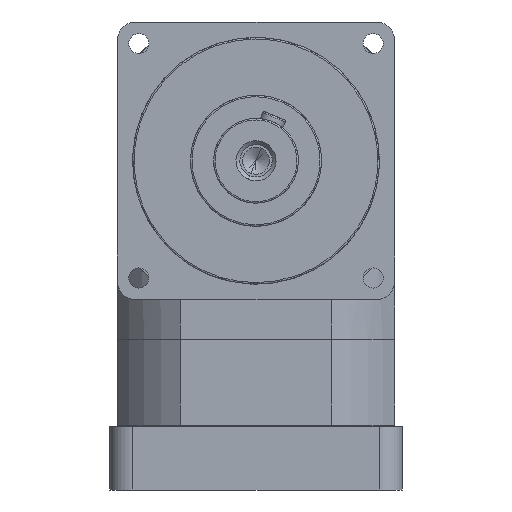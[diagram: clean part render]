
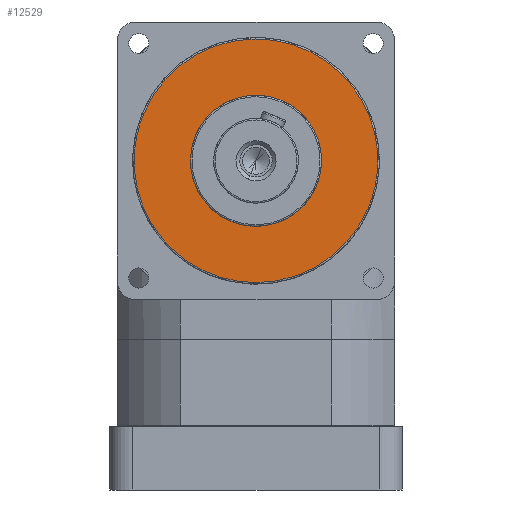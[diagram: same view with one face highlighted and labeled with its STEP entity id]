
A CAD part, left-side view. The second image highlights one B-rep face of the part: STEP entity #12529.
In plain terms, the highlighted planar face has unit normal (-1, 0, 0).
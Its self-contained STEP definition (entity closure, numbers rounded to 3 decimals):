
#3272 = CARTESIAN_POINT ( 'NONE',  ( -218.5, 12.682, 389.694 ) ) ;
#5060 = CARTESIAN_POINT ( 'NONE',  ( -218.5, 73.014, 243.666 ) ) ;
#5129 = VERTEX_POINT ( 'NONE', #34568 ) ;
#6584 = EDGE_CURVE ( 'NONE', #17054, #11764, #30233, .T. ) ;
#8515 = FACE_BOUND ( 'NONE', #34829, .T. ) ;
#9153 = CARTESIAN_POINT ( 'NONE',  ( -218.5, -73.014, 183.334 ) ) ;
#9936 = CARTESIAN_POINT ( 'NONE',  ( -218.5, 0., 213.5 ) ) ;
#10592 =( BOUNDED_CURVE ( )  B_SPLINE_CURVE ( 3, ( #14994, #3272, #27210, #9153 ),
 .UNSPECIFIED., .F., .F. ) 
 B_SPLINE_CURVE_WITH_KNOTS ( ( 4, 4 ),
 ( 0., 1. ),
 .UNSPECIFIED. ) 
 CURVE ( )  GEOMETRIC_REPRESENTATION_ITEM ( )  RATIONAL_B_SPLINE_CURVE ( ( 1., 0.333, 0.333, 1. ) ) 
 REPRESENTATION_ITEM ( '' )  );
#10963 = ORIENTED_EDGE ( 'NONE', *, *, #16827, .F. ) ;
#11086 = AXIS2_PLACEMENT_3D ( 'NONE', #14216, #14207, #14163 ) ;
#11764 = VERTEX_POINT ( 'NONE', #24006 ) ;
#11941 = CARTESIAN_POINT ( 'NONE',  ( -218.5, 0., 213.5 ) ) ;
#12529 = ADVANCED_FACE ( 'NONE', ( #8515, #13233 ), #23939, .F. ) ;
#12939 = DIRECTION ( 'NONE',  ( 0., 0.924, 0.382 ) ) ;
#13233 = FACE_OUTER_BOUND ( 'NONE', #27488, .T. ) ;
#13830 = CARTESIAN_POINT ( 'NONE',  ( -218.5, -12.682, 37.306 ) ) ;
#14163 = DIRECTION ( 'NONE',  ( 0., 0.924, 0.382 ) ) ;
#14207 = DIRECTION ( 'NONE',  ( -1., 0., 0. ) ) ;
#14216 = CARTESIAN_POINT ( 'NONE',  ( -218.5, 0., 213.5 ) ) ;
#14994 = CARTESIAN_POINT ( 'NONE',  ( -218.5, 73.014, 243.666 ) ) ;
#16683 = ORIENTED_EDGE ( 'NONE', *, *, #6584, .F. ) ;
#16827 = EDGE_CURVE ( 'NONE', #27609, #5129, #27451, .T. ) ;
#16902 = AXIS2_PLACEMENT_3D ( 'NONE', #9936, #31013, #12939 ) ;
#16962 = ORIENTED_EDGE ( 'NONE', *, *, #19300, .F. ) ;
#17054 = VERTEX_POINT ( 'NONE', #35232 ) ;
#17989 = DIRECTION ( 'NONE',  ( 0., 0.924, 0.382 ) ) ;
#19300 = EDGE_CURVE ( 'NONE', #5129, #27609, #24646, .T. ) ;
#20665 = ORIENTED_EDGE ( 'NONE', *, *, #34410, .F. ) ;
#22261 = AXIS2_PLACEMENT_3D ( 'NONE', #11941, #35943, #17989 ) ;
#23939 = PLANE ( 'NONE',  #22261 ) ;
#24006 = CARTESIAN_POINT ( 'NONE',  ( -218.5, 73.014, 243.666 ) ) ;
#24646 = CIRCLE ( 'NONE', #11086, 42.5 ) ;
#27210 = CARTESIAN_POINT ( 'NONE',  ( -218.5, -133.346, 329.361 ) ) ;
#27451 = CIRCLE ( 'NONE', #16902, 42.5 ) ;
#27488 = EDGE_LOOP ( 'NONE', ( #16683, #20665 ) ) ;
#27609 = VERTEX_POINT ( 'NONE', #30104 ) ;
#30104 = CARTESIAN_POINT ( 'NONE',  ( -218.5, 39.28, 229.729 ) ) ;
#30233 =( BOUNDED_CURVE ( )  B_SPLINE_CURVE ( 3, ( #34874, #13830, #31909, #5060 ),
 .UNSPECIFIED., .F., .T. ) 
 B_SPLINE_CURVE_WITH_KNOTS ( ( 4, 4 ),
 ( 0., 1. ),
 .UNSPECIFIED. ) 
 CURVE ( )  GEOMETRIC_REPRESENTATION_ITEM ( )  RATIONAL_B_SPLINE_CURVE ( ( 1., 0.333, 0.333, 1. ) ) 
 REPRESENTATION_ITEM ( '' )  );
#31013 = DIRECTION ( 'NONE',  ( -1., 0., 0. ) ) ;
#31909 = CARTESIAN_POINT ( 'NONE',  ( -218.5, 133.346, 97.639 ) ) ;
#34410 = EDGE_CURVE ( 'NONE', #11764, #17054, #10592, .T. ) ;
#34568 = CARTESIAN_POINT ( 'NONE',  ( -218.5, -39.28, 197.271 ) ) ;
#34829 = EDGE_LOOP ( 'NONE', ( #10963, #16962 ) ) ;
#34874 = CARTESIAN_POINT ( 'NONE',  ( -218.5, -73.014, 183.334 ) ) ;
#35232 = CARTESIAN_POINT ( 'NONE',  ( -218.5, -73.014, 183.334 ) ) ;
#35943 = DIRECTION ( 'NONE',  ( 1., 0., 0. ) ) ;
